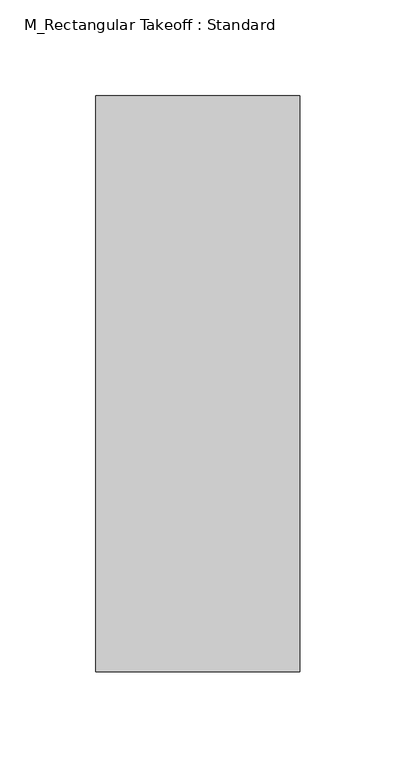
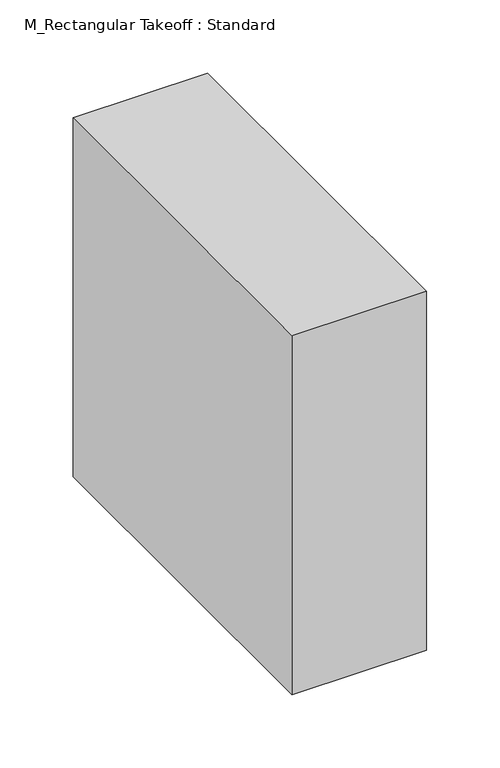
"""IFC4 building model written with IfcOpenShell, lengths in millimetres: duct fitting geometry, M_Rectangular Takeoff : Standard."""

from ifc_helpers import new_model, si_unit, frame, origin, place, context, project, spatial, polyline, outline, extrude, source, transform, mapped, element, save


def m_rectangular_takeoff_standard_e7652614(model_context):
    return source(origin(), model_context, "Body", "SweptSolid", [
        extrude(outline(polyline([(-6.096, 150.0), (100.1073046, 150.0), (100.1073046, -150.0), (-6.096, -150.0), (-6.096, 150.0)])), frame((0.0, 0.0, -150.0), z_axis=(0.0, 0.0, 1.0), x_axis=(1.0, 0.0, 0.0)), (0.0, 0.0, 1.0), 300.0),
        extrude(outline(polyline([(-6.096, 150.0), (100.1073046, 150.0), (100.1073046, -150.0), (-6.096, -150.0), (-6.096, 150.0)])), frame((0.0, 0.0, -150.0), z_axis=(0.0, 0.0, 1.0), x_axis=(1.0, 0.0, 0.0)), (0.0, 0.0, 1.0), 300.0),
        extrude(outline(polyline([(-6.096, 150.0), (100.1073046, 150.0), (100.1073046, -150.0), (-6.096, -150.0), (-6.096, 150.0)])), frame((0.0, 0.0, -150.0), z_axis=(0.0, 0.0, 1.0), x_axis=(1.0, 0.0, 0.0)), (0.0, 0.0, 1.0), 300.0),
    ])


if __name__ == "__main__":
    model = new_model("IFC4")
    model_context = context("Model", 3, world=origin())
    ifc_project = project(units=[si_unit("LENGTHUNIT", "METRE", prefix="MILLI")], contexts=[model_context])
    site = spatial("IfcSite", under=ifc_project)
    building = spatial("IfcBuilding", under=site)
    placement = place(None, origin())
    m_rectangular_takeoff_standard_shape = m_rectangular_takeoff_standard_e7652614(model_context)
    element("IfcDuctFitting", 1, ObjectType="M_Rectangular Takeoff : Standard", at=placement, inside=building, context=model_context, shape_type="MappedRepresentation", body=[
        mapped(m_rectangular_takeoff_standard_shape, transform((0.0, 0.0, 0.0), x_axis=(1.0, 0.0, 0.0), y_axis=(0.0, 1.0, 0.0), z_axis=(0.0, 0.0, 1.0))),
    ])
    save(model, "model.ifc")
